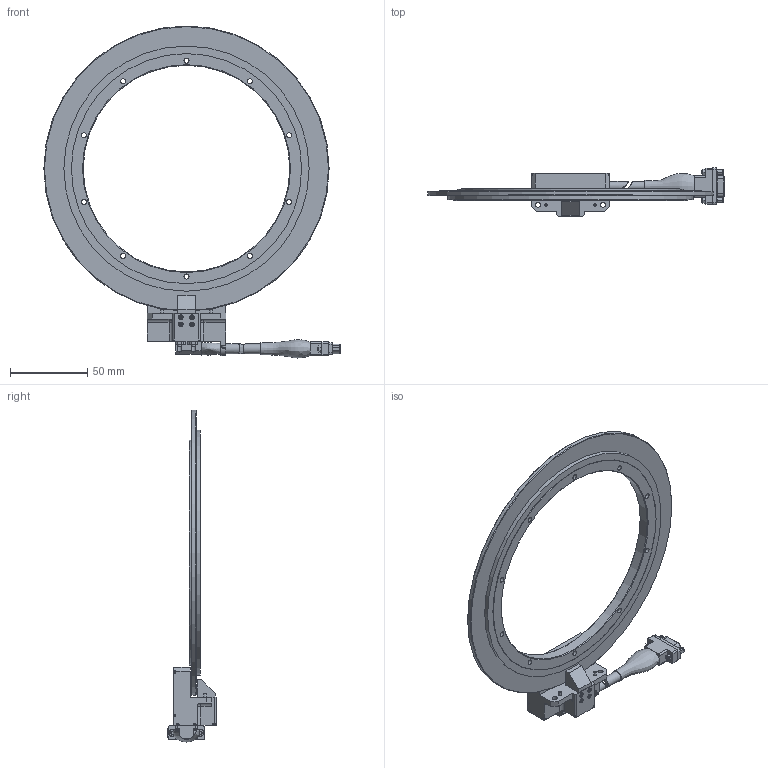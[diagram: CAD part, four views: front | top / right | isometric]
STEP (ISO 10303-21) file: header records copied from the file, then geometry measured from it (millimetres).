
FILE_DESCRIPTION (( 'STEP AP214' ), '1' );
FILE_NAME ('190-0315-05 Encoder Outline, 7.25 inch.STEP', '2020-07-17T20:39:56', ( '' ), ( '' ), 'SwSTEP 2.0', 'SolidWorks 2019', '' );
FILE_SCHEMA (( 'AUTOMOTIVE_DESIGN' ));
Length unit declared in the file: inch
Products named in the file (3): Disk Hub Assy, 7.25 inch; 190-0315-05 Encoder Outline, 7.25 inch; AIME-II Readhead Assy, Left Exit
Assembly tree (2 placements, depth 2):
  190-0315-05 Encoder Outline, 7.25 inch
    Disk Hub Assy, 7.25 inch
    AIME-II Readhead Assy, Left Exit
Bounding box: 191.26 x 31.12 x 214.33 mm (x, y, z)
Volume: 95775.4 mm3; surface area: 48249.3 mm2
Topology: 3 solids, 15 shells, 1575 faces, 3944 edges, 2573 vertices
Faces by surface type: plane 1048, cylinder 229, bspline 213, cone 81, sphere 2, torus 2
Full cylindrical faces by diameter (mm): 0.508 x15, 0.635 x15, 1.513 x1, 1.524 x12, 1.575 x2, 1.59 x2, 1.694 x2, 1.778 x12, 2.17 x4, 2.2 x2, 2.311 x2, 2.339 x1, 2.36 x2, 2.4 x2, 2.438 x18, 3.251 x2, 3.264 x10, 6.35 x3, 133.35 x1, 145.288 x1, 146.812 x1, 148.59 x1, 158.293 x1, 184.15 x1
Entity records: 88853 total; most frequent: CARTESIAN_POINT 33073, ORIENTED_EDGE 7262, DIRECTION 6468, EDGE_CURVE 3631, VECTOR 2616, LINE 2616, VERTEX_POINT 2470, EDGE_LOOP 2015
